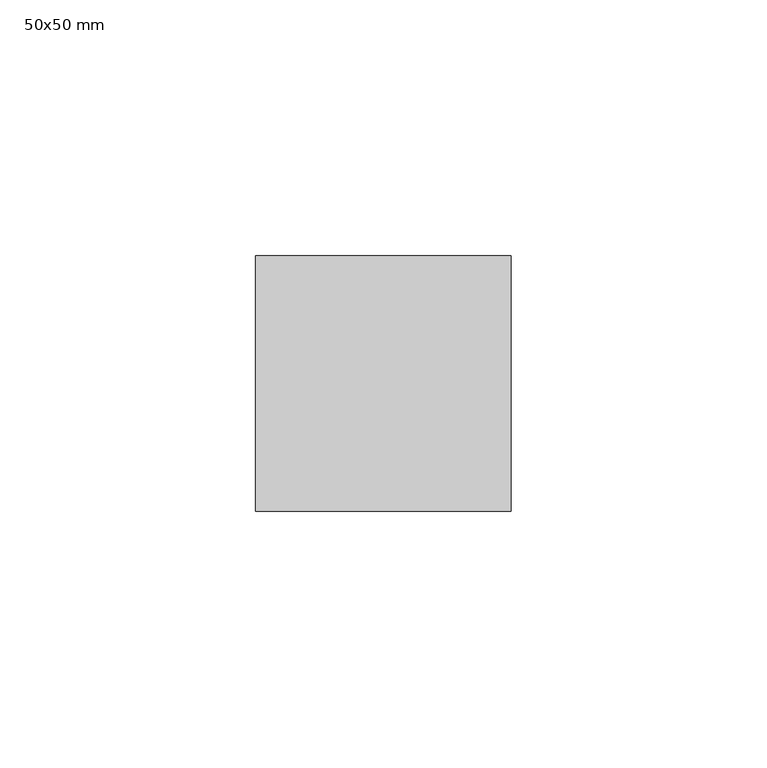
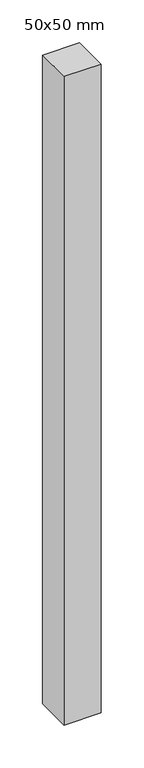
"""IFC4 building model written with IfcOpenShell, lengths in millimetres: member geometry, Obdélníková příčel : 50x50 mm."""

from ifc_helpers import new_model, si_unit, frame, origin, place, context, project, spatial, polyline, outline, extrude, source, transform, mapped, element, save


def member_50x50_mm_d57dae31(model_context):
    return source(origin(), model_context, "Body", "SweptSolid", [
        extrude(outline(polyline([(25.0, 25.0), (25.0, -25.0), (-25.0, -25.0), (-25.0, 25.0), (25.0, 25.0)])), frame((0.0, 0.0, -925.0), z_axis=(0.0, 0.0, 1.0), x_axis=(1.0, 0.0, 0.0)), (0.0, 0.0, 1.0), 925.0),
    ])


if __name__ == "__main__":
    model = new_model("IFC4")
    model_context = context("Model", 3, world=origin())
    ifc_project = project(units=[si_unit("LENGTHUNIT", "METRE", prefix="MILLI")], contexts=[model_context])
    site = spatial("IfcSite", under=ifc_project)
    building = spatial("IfcBuilding", under=site)
    placement = place(None, origin())
    member_50x50_mm_shape = member_50x50_mm_d57dae31(model_context)
    element("IfcMember", 1, ObjectType="Obdélníková příčel : 50x50 mm", at=placement, inside=building, context=model_context, shape_type="MappedRepresentation", body=[
        mapped(member_50x50_mm_shape, transform((0.0, 0.0, 0.0), x_axis=(1.0, 0.0, 0.0), y_axis=(0.0, 1.0, 0.0), z_axis=(0.0, 0.0, 1.0))),
    ])
    save(model, "model.ifc")
